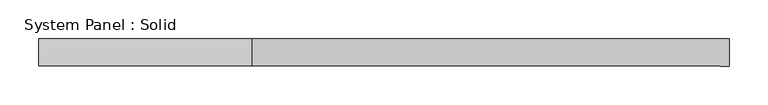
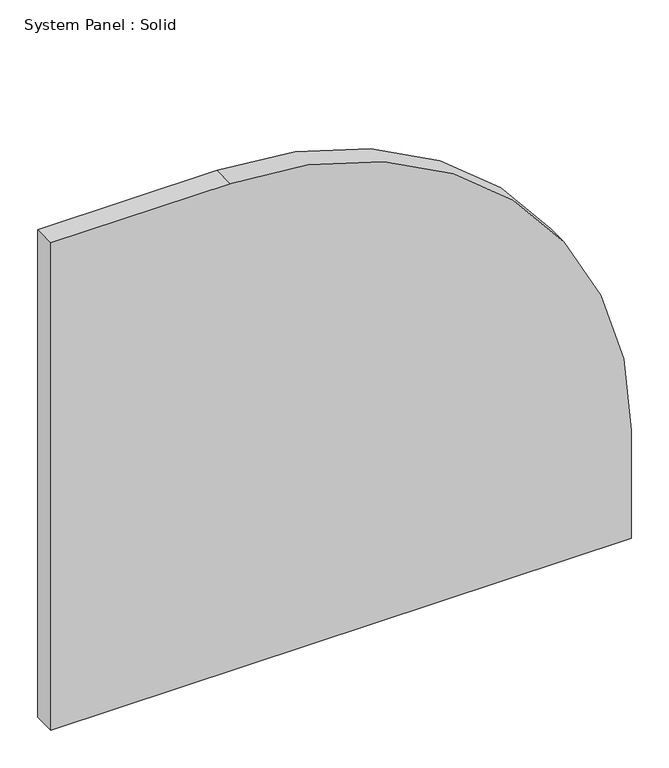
"""IFC4 building model written with IfcOpenShell, lengths in millimetres: plate geometry, System Panel : Solid."""

from ifc_helpers import new_model, si_unit, point, frame, frame_2d, origin, place, context, project, spatial, polyline, circle_curve, trimmed, segment, composite_curve, outline, extrude, source, transform, mapped, element, save


def system_panel_solid_2425c893(model_context):
    return source(origin(), model_context, "Body", "SweptSolid", [
        extrude(outline(composite_curve([segment(polyline([(0.0, -444.9999998), (0.0, 444.9999998), (175.0, 444.9999998)]), True, "CONTINUOUS"), segment(trimmed(circle_curve(frame_2d((175.0, -170.0000002)), 615.0), [point((175.0, 444.9999998))], [point((790.0, -170.0000002))], False, "CARTESIAN"), True, "CONTINUOUS"), segment(polyline([(790.0, -170.0000002), (790.0, -444.9999998), (0.0, -444.9999998)]), True, "CONTINUOUS")], self_intersect=False)), frame((0.0, -2.5, 0.0), z_axis=(0.0, 1.0, 0.0), x_axis=(0.0, 0.0, 1.0)), (0.0, 0.0, 1.0), 35.0),
    ])


if __name__ == "__main__":
    model = new_model("IFC4")
    model_context = context("Model", 3, world=origin())
    ifc_project = project(units=[si_unit("LENGTHUNIT", "METRE", prefix="MILLI")], contexts=[model_context])
    site = spatial("IfcSite", under=ifc_project)
    building = spatial("IfcBuilding", under=site)
    placement = place(None, origin())
    system_panel_solid_shape = system_panel_solid_2425c893(model_context)
    element("IfcPlate", 1, ObjectType="System Panel : Solid", at=placement, inside=building, context=model_context, shape_type="MappedRepresentation", body=[
        mapped(system_panel_solid_shape, transform((0.0, 0.0, 0.0), x_axis=(1.0, 0.0, 0.0), y_axis=(0.0, 1.0, 0.0), z_axis=(0.0, 0.0, 1.0))),
    ])
    save(model, "model.ifc")
